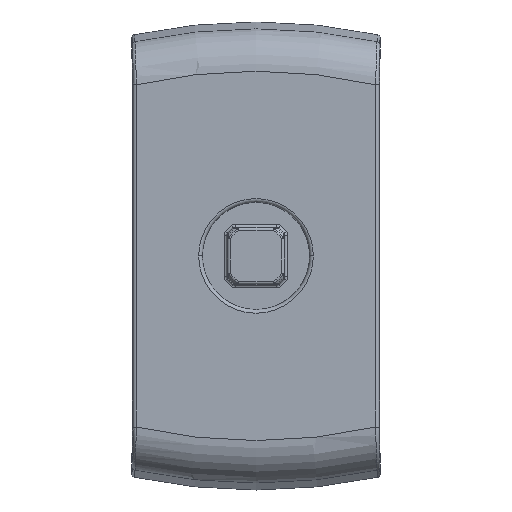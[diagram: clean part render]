
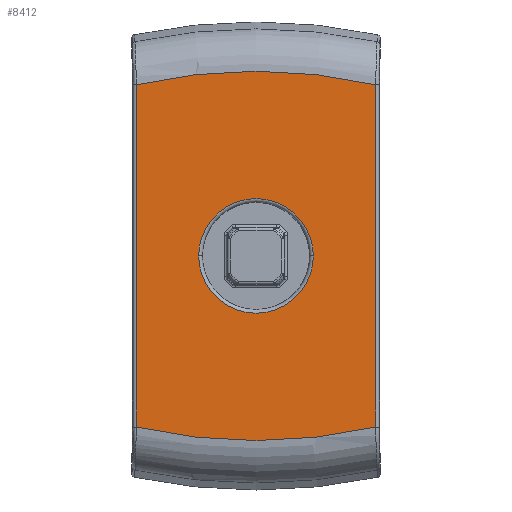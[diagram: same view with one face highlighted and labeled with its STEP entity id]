
A CAD part, top view. The second image highlights one B-rep face of the part: STEP entity #8412.
In plain terms, the highlighted planar face has unit normal (0, 0, 1).
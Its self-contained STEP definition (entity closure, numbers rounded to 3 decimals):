
#734 = VERTEX_POINT ( 'NONE', #1648 ) ;
#1648 = CARTESIAN_POINT ( 'NONE',  ( 16.369, 23.4, 8. ) ) ;
#1771 = LINE ( 'NONE', #24247, #17516 ) ;
#2482 = DIRECTION ( 'NONE',  ( 1., 0., 0. ) ) ;
#3488 = ORIENTED_EDGE ( 'NONE', *, *, #6031, .T. ) ;
#3876 = CARTESIAN_POINT ( 'NONE',  ( 0., 48., 8. ) ) ;
#4353 = AXIS2_PLACEMENT_3D ( 'NONE', #16937, #10807, #22872 ) ;
#4810 = FACE_OUTER_BOUND ( 'NONE', #16811, .T. ) ;
#4991 = CARTESIAN_POINT ( 'NONE',  ( 0., 0., 8. ) ) ;
#5014 = VERTEX_POINT ( 'NONE', #7675 ) ;
#5560 = DIRECTION ( 'NONE',  ( 0., 0., -1. ) ) ;
#6031 = EDGE_CURVE ( 'NONE', #32328, #5014, #28315, .T. ) ;
#6189 = CIRCLE ( 'NONE', #4353, 7.84 ) ;
#7324 = ORIENTED_EDGE ( 'NONE', *, *, #33561, .T. ) ;
#7675 = CARTESIAN_POINT ( 'NONE',  ( 16.369, -23.4, 8. ) ) ;
#8047 = DIRECTION ( 'NONE',  ( 1., 0., 0. ) ) ;
#8412 = ADVANCED_FACE ( 'NONE', ( #33944, #4810 ), #16475, .T. ) ;
#8775 = VERTEX_POINT ( 'NONE', #17583 ) ;
#9449 = AXIS2_PLACEMENT_3D ( 'NONE', #4991, #5560, #31656 ) ;
#10425 = CARTESIAN_POINT ( 'NONE',  ( 16.369, 23.286, 8. ) ) ;
#10735 = DIRECTION ( 'NONE',  ( 0., 0., 1. ) ) ;
#10807 = DIRECTION ( 'NONE',  ( 0., 0., -1. ) ) ;
#11491 = ORIENTED_EDGE ( 'NONE', *, *, #22973, .T. ) ;
#12230 = EDGE_LOOP ( 'NONE', ( #11491, #7324 ) ) ;
#15193 = CARTESIAN_POINT ( 'NONE',  ( -16.369, 23.4, 8. ) ) ;
#15545 = DIRECTION ( 'NONE',  ( 0., 0., 1. ) ) ;
#15930 = CIRCLE ( 'NONE', #32492, 73.252 ) ;
#16475 = PLANE ( 'NONE',  #37005 ) ;
#16811 = EDGE_LOOP ( 'NONE', ( #36823, #36511, #3488, #36139 ) ) ;
#16937 = CARTESIAN_POINT ( 'NONE',  ( 0., 0., 8. ) ) ;
#17201 = DIRECTION ( 'NONE',  ( 0., 0., 1. ) ) ;
#17292 = EDGE_CURVE ( 'NONE', #22370, #32328, #1771, .T. ) ;
#17516 = VECTOR ( 'NONE', #27319, 1000. ) ;
#17583 = CARTESIAN_POINT ( 'NONE',  ( 7.84, 0., 8. ) ) ;
#17892 = AXIS2_PLACEMENT_3D ( 'NONE', #3876, #15545, #8047 ) ;
#18015 = CIRCLE ( 'NONE', #9449, 7.84 ) ;
#19746 = EDGE_CURVE ( 'NONE', #5014, #734, #30596, .T. ) ;
#21723 = CARTESIAN_POINT ( 'NONE',  ( -16.369, -23.4, 8. ) ) ;
#22370 = VERTEX_POINT ( 'NONE', #15193 ) ;
#22417 = DIRECTION ( 'NONE',  ( 1., 0., 0. ) ) ;
#22872 = DIRECTION ( 'NONE',  ( 1., 0., 0. ) ) ;
#22973 = EDGE_CURVE ( 'NONE', #8775, #37067, #18015, .T. ) ;
#24247 = CARTESIAN_POINT ( 'NONE',  ( -16.369, -23.286, 8. ) ) ;
#24568 = VECTOR ( 'NONE', #33834, 1000. ) ;
#25092 = CARTESIAN_POINT ( 'NONE',  ( -7.84, 0., 8. ) ) ;
#27319 = DIRECTION ( 'NONE',  ( 0., -1., 0. ) ) ;
#28315 = CIRCLE ( 'NONE', #17892, 73.252 ) ;
#29135 = CARTESIAN_POINT ( 'NONE',  ( 0., -48., 8. ) ) ;
#30596 = LINE ( 'NONE', #10425, #24568 ) ;
#31656 = DIRECTION ( 'NONE',  ( 1., 0., 0. ) ) ;
#32328 = VERTEX_POINT ( 'NONE', #21723 ) ;
#32492 = AXIS2_PLACEMENT_3D ( 'NONE', #29135, #17201, #2482 ) ;
#32865 = EDGE_CURVE ( 'NONE', #734, #22370, #15930, .T. ) ;
#33561 = EDGE_CURVE ( 'NONE', #37067, #8775, #6189, .T. ) ;
#33834 = DIRECTION ( 'NONE',  ( 0., 1., 0. ) ) ;
#33944 = FACE_BOUND ( 'NONE', #12230, .T. ) ;
#36139 = ORIENTED_EDGE ( 'NONE', *, *, #19746, .T. ) ;
#36511 = ORIENTED_EDGE ( 'NONE', *, *, #17292, .T. ) ;
#36823 = ORIENTED_EDGE ( 'NONE', *, *, #32865, .T. ) ;
#37005 = AXIS2_PLACEMENT_3D ( 'NONE', #37031, #10735, #22417 ) ;
#37031 = CARTESIAN_POINT ( 'NONE',  ( 0., -48., 8. ) ) ;
#37067 = VERTEX_POINT ( 'NONE', #25092 ) ;
